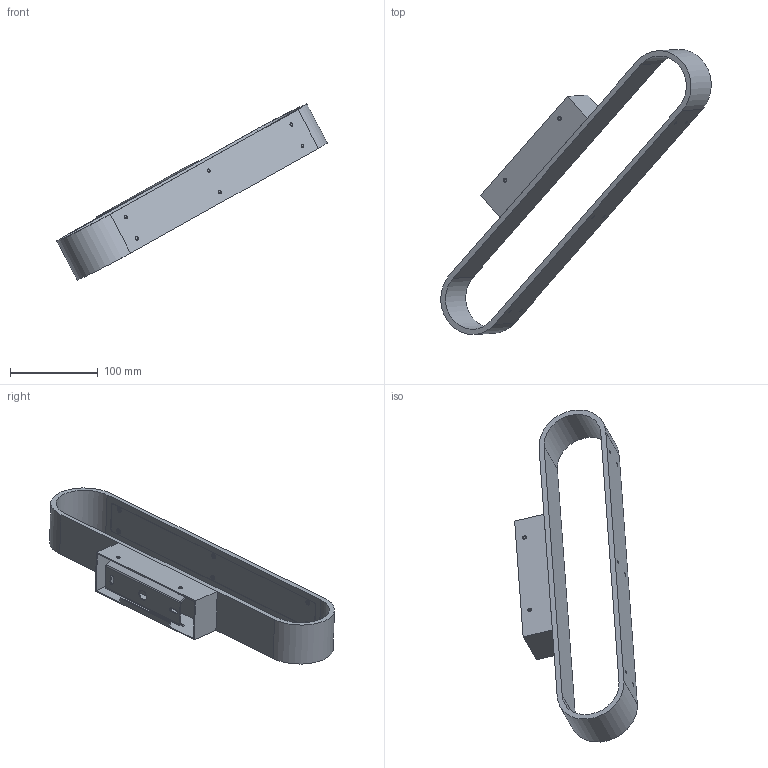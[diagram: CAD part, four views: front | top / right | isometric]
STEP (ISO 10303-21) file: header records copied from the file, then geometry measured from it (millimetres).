
FILE_DESCRIPTION (( 'STEP AP214' ), '1' );
FILE_NAME ('GALA-A3189073.STEP', '2026-01-14T06:37:45', ( '' ), ( '' ), 'SwSTEP 2.0', 'SolidWorks 2025', '' );
FILE_SCHEMA (( 'AUTOMOTIVE_DESIGN' ));
Length unit declared in the file: millimetre
Products named in the file (7): 070 base_默认; acrylic 070_默认; M4_默认; M3 screws_默认; 070 bracket_默认; GALA-A3189073; 070 lamp boday_默认
Assembly tree (13 placements, depth 2):
  GALA-A3189073
    acrylic 070_默认  x2
    070 base_默认
    070 bracket_默认
    070 lamp boday_默认
    M3 screws_默认  x6
    M4_默认  x2
Bounding box: 307.63 x 324.32 x 200.52 mm (x, y, z)
Volume: 325949.2 mm3; surface area: 215870.2 mm2
Topology: 13 solids, 13 shells, 314 faces, 742 edges, 487 vertices
Faces by surface type: plane 175, cylinder 83, bspline 44, cone 12
Full cylindrical faces by diameter (mm): 3.5 x18, 4 x2, 5 x4, 6 x12, 12 x1
Entity records: 12574 total; most frequent: CARTESIAN_POINT 8144, ORIENTED_EDGE 842, DIRECTION 827, EDGE_CURVE 421, AXIS2_PLACEMENT_3D 299, VERTEX_POINT 291, EDGE_LOOP 274, LINE 229
